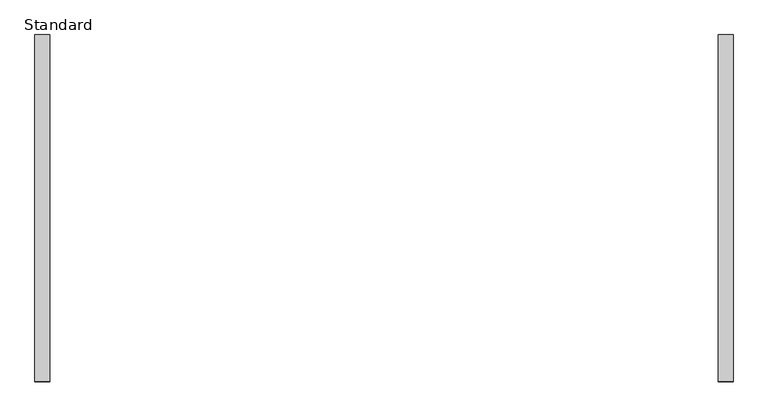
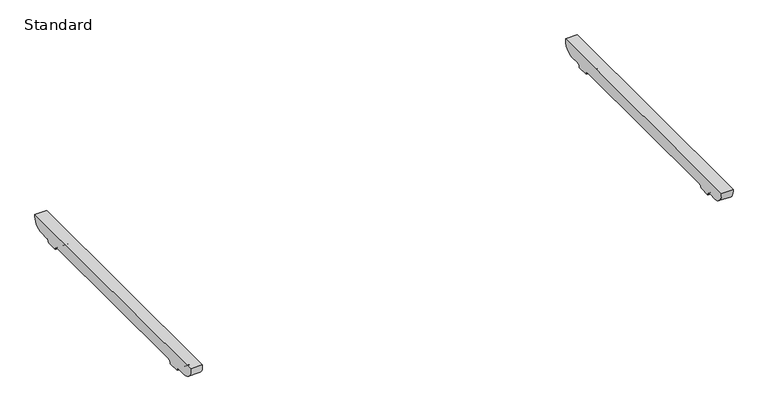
"""IFC4 building model written with IfcOpenShell, lengths in millimetres: furniture geometry, BDG_BossDesign_Tbls_AgentTables4Legs_Nested : Standard."""

from ifc_helpers import new_model, si_unit, point, frame, frame_2d, origin, place, context, project, spatial, polyline, circle_curve, trimmed, segment, composite_curve, outline, extrude, source, transform, mapped, element, save


def standard_f65d799b(model_context):
    return source(origin(), model_context, "Body", "SweptSolid", [
        extrude(outline(composite_curve([segment(polyline([(480.5450184, 672.0), (442.7000122, 672.0)]), True, "CONTINUOUS"), segment(trimmed(circle_curve(frame_2d((442.7000122, 660.0)), 12.0), [point((442.7000122, 672.0))], [point((430.7000122, 660.0))], True, "CARTESIAN"), True, "CONTINUOUS"), segment(polyline([(430.7000122, 660.0), (385.7000122, 660.0)]), True, "CONTINUOUS"), segment(trimmed(circle_curve(frame_2d((373.7000122, 660.0)), 12.0), [point((385.7000122, 660.0))], [point((373.7000122, 672.0))], True, "CARTESIAN"), True, "CONTINUOUS"), segment(polyline([(373.7000122, 672.0), (-373.7000122, 672.0)]), True, "CONTINUOUS"), segment(trimmed(circle_curve(frame_2d((-373.7000122, 660.0)), 12.0), [point((-373.7000122, 672.0))], [point((-385.7000122, 660.0))], True, "CARTESIAN"), True, "CONTINUOUS"), segment(polyline([(-385.7000122, 660.0), (-430.7000122, 660.0)]), True, "CONTINUOUS"), segment(trimmed(circle_curve(frame_2d((-442.7000122, 660.0)), 12.0), [point((-430.7000122, 660.0))], [point((-442.7000122, 672.0))], True, "CARTESIAN"), True, "CONTINUOUS"), segment(polyline([(-442.7000122, 672.0), (-480.5450184, 672.0)]), True, "CONTINUOUS"), segment(trimmed(circle_curve(frame_2d((-478.2220439, 716.5514119)), 44.6119324), [point((-480.5450184, 672.0))], [point((-522.5, 722.0))], False, "CARTESIAN"), True, "CONTINUOUS"), segment(polyline([(-522.5, 722.0), (522.5, 722.0)]), True, "CONTINUOUS"), segment(trimmed(circle_curve(frame_2d((478.2220439, 716.5514119)), 44.6119324), [point((522.5, 722.0))], [point((480.5450184, 672.0))], False, "CARTESIAN"), True, "CONTINUOUS")], self_intersect=False)), frame((1005.0, 0.0, 0.0), z_axis=(1.0, 0.0, 0.0), x_axis=(0.0, 1.0, 0.0)), (0.0, 0.0, 1.0), 45.0),
        extrude(outline(composite_curve([segment(polyline([(480.5450184, 672.0), (442.7000122, 672.0)]), True, "CONTINUOUS"), segment(trimmed(circle_curve(frame_2d((442.7000122, 660.0)), 12.0), [point((442.7000122, 672.0))], [point((430.7000122, 660.0))], True, "CARTESIAN"), True, "CONTINUOUS"), segment(polyline([(430.7000122, 660.0), (385.7000122, 660.0)]), True, "CONTINUOUS"), segment(trimmed(circle_curve(frame_2d((373.7000122, 660.0)), 12.0), [point((385.7000122, 660.0))], [point((373.7000122, 672.0))], True, "CARTESIAN"), True, "CONTINUOUS"), segment(polyline([(373.7000122, 672.0), (-373.7000122, 672.0)]), True, "CONTINUOUS"), segment(trimmed(circle_curve(frame_2d((-373.7000122, 660.0)), 12.0), [point((-373.7000122, 672.0))], [point((-385.7000122, 660.0))], True, "CARTESIAN"), True, "CONTINUOUS"), segment(polyline([(-385.7000122, 660.0), (-430.7000122, 660.0)]), True, "CONTINUOUS"), segment(trimmed(circle_curve(frame_2d((-442.7000122, 660.0)), 12.0), [point((-430.7000122, 660.0))], [point((-442.7000122, 672.0))], True, "CARTESIAN"), True, "CONTINUOUS"), segment(polyline([(-442.7000122, 672.0), (-480.5450184, 672.0)]), True, "CONTINUOUS"), segment(trimmed(circle_curve(frame_2d((-478.2220439, 716.5514119)), 44.6119324), [point((-480.5450184, 672.0))], [point((-522.5, 722.0))], False, "CARTESIAN"), True, "CONTINUOUS"), segment(polyline([(-522.5, 722.0), (522.5, 722.0)]), True, "CONTINUOUS"), segment(trimmed(circle_curve(frame_2d((478.2220439, 716.5514119)), 44.6119324), [point((522.5, 722.0))], [point((480.5450184, 672.0))], False, "CARTESIAN"), True, "CONTINUOUS")], self_intersect=False)), frame((-1050.0, 0.0, 0.0), z_axis=(1.0, 0.0, 0.0), x_axis=(0.0, 1.0, 0.0)), (0.0, 0.0, 1.0), 45.0),
    ])


if __name__ == "__main__":
    model = new_model("IFC4")
    model_context = context("Model", 3, world=origin())
    ifc_project = project(units=[si_unit("LENGTHUNIT", "METRE", prefix="MILLI")], contexts=[model_context])
    site = spatial("IfcSite", under=ifc_project)
    building = spatial("IfcBuilding", under=site)
    placement = place(None, origin())
    standard_shape = standard_f65d799b(model_context)
    element("IfcFurniture", 1, ObjectType="BDG_BossDesign_Tbls_AgentTables4Legs_Nested : Standard", at=placement, inside=building, context=model_context, shape_type="MappedRepresentation", body=[
        mapped(standard_shape, transform((0.0, 0.0, 0.0), x_axis=(1.0, 0.0, 0.0), y_axis=(0.0, 1.0, 0.0), z_axis=(0.0, 0.0, 1.0))),
    ])
    save(model, "model.ifc")
